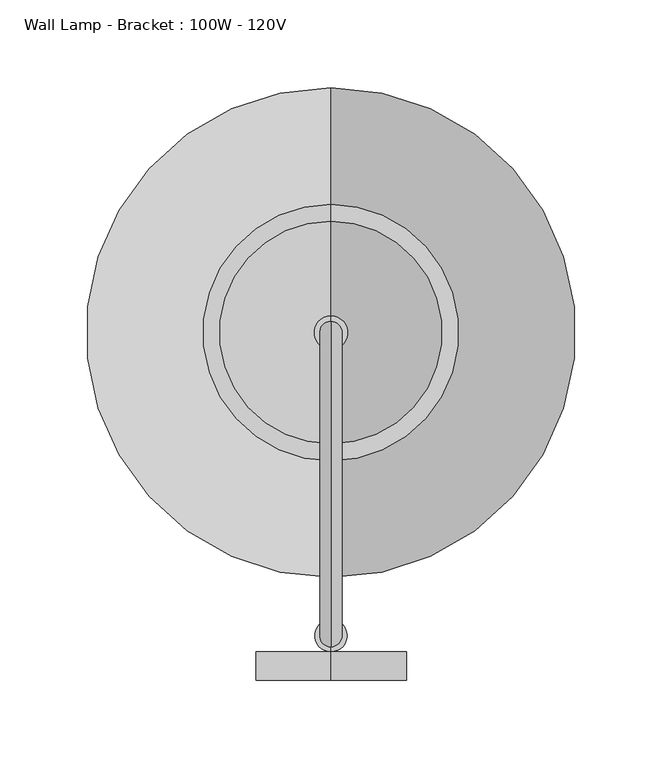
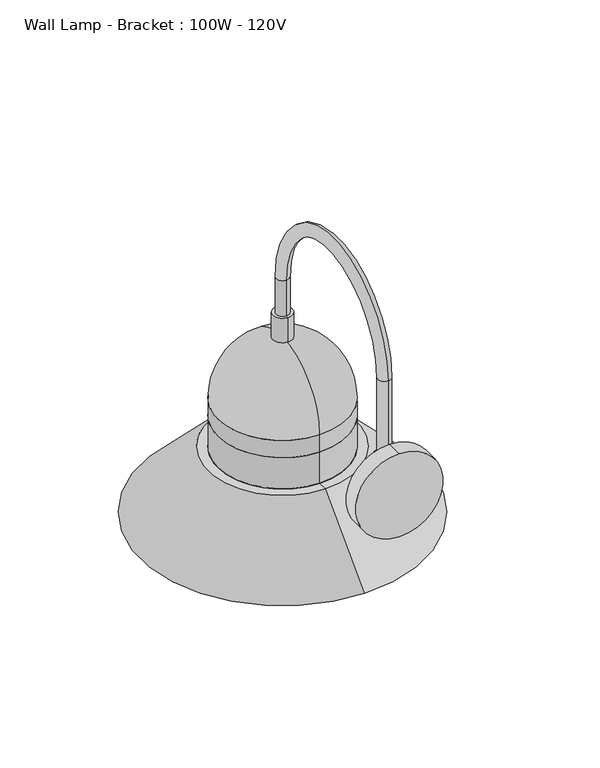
"""IFC4 building model written with IfcOpenShell, lengths in millimetres: light fixture geometry, Wall Lamp - Bracket : 100W - 120V."""

from ifc_helpers import new_model, si_unit, point, frame, frame_2d, origin, place, context, project, spatial, polyline, circle_curve, ellipse_curve, trimmed, segment, composite_curve, outline, extrude, source, transform, mapped, element, save
from ifc_brep_helpers import plane_surface, cylinder_surface, revolved_surface, advanced_brep


def wall_lamp_bracket_100w_120v_972e2e4e(model_context):
    return source(origin(), model_context, "Body", "SolidModel", [
        advanced_brep(
        [(-36.3556627, 85.7645413, 2413.7644247), (-36.3556627, 98.4645413, 2413.7644247), (-36.3556627, 98.4645413, 2334.6251468), (-36.3556627, 85.7645413, 2334.6251468), (-36.3556627, 271.4625, 2413.7644247), (-36.3556627, 258.7625, 2413.7644247), (-36.3556627, 271.4625, 2376.6250104), (-36.3556627, 258.7625, 2376.6250104), (-36.3556627, 82.9143793, 2334.6251468), (-36.3556627, 101.3147034, 2334.6251468), (-36.3556627, 101.3147034, 2307.1079598), (-36.3556627, 82.9143793, 2307.1079598), (-36.3556627, 92.1145413, 2297.9077977)],
        [
            (0, 1, circle_curve(frame((-36.3556627, 92.1145413, 2413.7644247), z_axis=(0.0, 0.0, -1.0), x_axis=(0.0, 1.0, 0.0)), 6.35)),
            (1, 2),
            (2, 3, circle_curve(frame((-36.3556627, 92.1145413, 2334.6251468), z_axis=(0.0, 0.0, 1.0), x_axis=(0.0, 1.0, 0.0)), 6.35)),
            (3, 0),
            (1, 0, circle_curve(frame((-36.3556627, 92.1145413, 2413.7644247), z_axis=(0.0, 0.0, -1.0), x_axis=(0.0, 1.0, 0.0)), 6.35)),
            (3, 2, circle_curve(frame((-36.3556627, 92.1145413, 2334.6251468), z_axis=(0.0, 0.0, 1.0), x_axis=(0.0, 1.0, 0.0)), 6.35)),
            (0, 4, circle_curve(frame((-36.3556627, 178.6135207, 2413.7644247), z_axis=(-1.0, 0.0, 0.0), x_axis=(0.0, -1.0, 0.0)), 92.8489793)),
            (4, 5, circle_curve(frame((-36.3556627, 265.1125, 2413.7644247), z_axis=(0.0, 0.0, 1.0), x_axis=(0.0, -1.0, 0.0)), 6.35)),
            (5, 1, circle_curve(frame((-36.3556627, 178.6135207, 2413.7644247), z_axis=(1.0, 0.0, 0.0), x_axis=(0.0, -1.0, 0.0)), 80.1489793)),
            (5, 4, circle_curve(frame((-36.3556627, 265.1125, 2413.7644247), z_axis=(0.0, 0.0, 1.0), x_axis=(0.0, -1.0, 0.0)), 6.35)),
            (6, 7, circle_curve(frame((-36.3556627, 265.1125, 2376.6250104), z_axis=(0.0, 0.0, -1.0), x_axis=(0.0, -1.0, 0.0)), 6.35)),
            (7, 6, circle_curve(frame((-36.3556627, 265.1125, 2376.6250104), z_axis=(0.0, 0.0, -1.0), x_axis=(0.0, -1.0, 0.0)), 6.35)),
            (4, 6),
            (7, 5),
            (8, 9, circle_curve(frame((-36.3556627, 92.1145413, 2334.6251468), z_axis=(0.0, 0.0, 1.0), x_axis=(0.0, -1.0, 0.0)), 9.2001621)),
            (9, 2),
            (3, 8),
            (9, 8, circle_curve(frame((-36.3556627, 92.1145413, 2334.6251468), z_axis=(0.0, 0.0, 1.0), x_axis=(0.0, -1.0, 0.0)), 9.2001621)),
            (10, 11, circle_curve(frame((-36.3556627, 92.1145413, 2307.1079598), z_axis=(0.0, 0.0, -1.0), x_axis=(0.0, -1.0, 0.0)), 9.2001621)),
            (11, 12, circle_curve(frame((-36.3556627, 92.1145413, 2307.1079598), z_axis=(1.0, 0.0, 0.0), x_axis=(0.0, -1.0, 0.0)), 9.2001621)),
            (12, 10, circle_curve(frame((-36.3556627, 92.1145413, 2307.1079598), z_axis=(1.0, 0.0, 0.0), x_axis=(0.0, 1.0, 0.0)), 9.2001621)),
            (11, 10, circle_curve(frame((-36.3556627, 92.1145413, 2307.1079598), z_axis=(0.0, 0.0, -1.0), x_axis=(0.0, -1.0, 0.0)), 9.2001621)),
            (8, 11),
            (10, 9),
        ],
        [
            cylinder_surface(frame((-36.3556627, 92.1145413, 2317.75), z_axis=(0.0, 0.0, -1.0), x_axis=(0.0, 1.0, 0.0)), 6.35),
            revolved_surface(trimmed(ellipse_curve(frame((-36.3556627, 92.1145413, 2413.7644247), z_axis=(0.0, 0.0, -1.0), x_axis=(0.0, 1.0, 0.0)), 6.35, 6.35), [point((-36.3556627, 85.7645413, 2413.7644247))], [point((-36.3556627, 98.4645413, 2413.7644247))], True, "CARTESIAN"), (-36.3556627, 178.6135207, 2413.7644247), (-1.0, 0.0, 0.0)),
            revolved_surface(trimmed(ellipse_curve(frame((-36.3556627, 92.1145413, 2413.7644247), z_axis=(0.0, 0.0, -1.0), x_axis=(0.0, 1.0, 0.0)), 6.35, 6.35), [point((-36.3556627, 98.4645413, 2413.7644247))], [point((-36.3556627, 85.7645413, 2413.7644247))], True, "CARTESIAN"), (-36.3556627, 178.6135207, 2413.7644247), (-1.0, 0.0, 0.0)),
            plane_surface(frame((-36.3556627, 258.7625, 2376.6250104), z_axis=(0.0, 0.0, -1.0), x_axis=(-1.0, 0.0, 0.0))),
            cylinder_surface(frame((-36.3556627, 265.1125, 2413.7644247), z_axis=(0.0, 0.0, 1.0), x_axis=(0.0, -1.0, 0.0)), 6.35),
            plane_surface(frame((-36.3556627, 92.1145413, 2334.6251468), z_axis=(0.0, 0.0, 1.0), x_axis=(0.0, -1.0, 0.0))),
            revolved_surface(trimmed(ellipse_curve(frame((-36.3556627, 92.1145413, 2307.1079598), z_axis=(-1.0, 0.0, 0.0), x_axis=(0.0, -1.0, 0.0)), 9.2001621, 9.2001621), [point((-36.3556627, 92.1145413, 2297.9077977))], [point((-36.3556627, 82.9143793, 2307.1079598))], True, "CARTESIAN"), (-36.3556627, 92.1145413, 2472.7469008), (0.0, 0.0, 1.0)),
            cylinder_surface(frame((-36.3556627, 92.1145413, 2472.7469008), z_axis=(0.0, 0.0, 1.0), x_axis=(0.0, -1.0, 0.0)), 9.2001621),
        ],
        [
            (0, [[1, 2, 3, 4]]),
            (0, [[5, -4, 6, -2]]),
            (1, [[-1, 7, 8, 9]]),
            (2, [[-5, -9, 10, -7]]),
            (3, [[11, 12]]),
            (4, [[-8, 13, -12, 14]]),
            (4, [[-10, -14, -11, -13]]),
            (5, [[15, 16, -6, 17]]),
            (5, [[18, -17, -3, -16]]),
            (6, [[19, 20, 21]]),
            (6, [[-20, 22, -21]]),
            (7, [[-15, 23, -19, 24]]),
            (7, [[-18, -24, -22, -23]]),
        ],
    ),
        extrude(outline(composite_curve([segment(trimmed(circle_curve(frame_2d((2307.1079598, -36.3556627)), 43.0116676), [point((2264.0962922, -36.3556627))], [point((2350.1196273, -36.3556627))], False, "CARTESIAN"), True, "CONTINUOUS"), segment(trimmed(circle_curve(frame_2d((2307.1079598, -36.3556627)), 43.0116676), [point((2350.1196273, -36.3556627))], [point((2264.0962922, -36.3556627))], False, "CARTESIAN"), True, "CONTINUOUS")], self_intersect=False)), frame((0.0, 66.675, 0.0), z_axis=(0.0, 1.0, 0.0), x_axis=(0.0, 0.0, 1.0)), (0.0, 0.0, 1.0), 16.2393793),
        advanced_brep(
        [(-36.3556627, 328.6125, 2237.5701357), (-36.3556627, 201.6125, 2237.5701357), (-36.3556627, 201.6125, 2197.1), (-36.3556627, 328.6125, 2197.1), (-36.3556627, 265.1125, 2237.5701357), (-36.3556627, 265.1125, 2133.6)],
        [
            (0, 1, circle_curve(frame((-36.3556627, 265.1125, 2237.5701357), z_axis=(0.0, 0.0, -1.0), x_axis=(0.0, -1.0, 0.0)), 63.5)),
            (1, 2),
            (2, 3, circle_curve(frame((-36.3556627, 265.1125, 2197.1), z_axis=(0.0, 0.0, 1.0), x_axis=(0.0, -1.0, 0.0)), 63.5)),
            (3, 0),
            (1, 0, circle_curve(frame((-36.3556627, 265.1125, 2237.5701357), z_axis=(0.0, 0.0, -1.0), x_axis=(0.0, -1.0, 0.0)), 63.5)),
            (3, 2, circle_curve(frame((-36.3556627, 265.1125, 2197.1), z_axis=(0.0, 0.0, 1.0), x_axis=(0.0, -1.0, 0.0)), 63.5)),
            (4, 1),
            (0, 4),
            (2, 5, circle_curve(frame((-36.3556627, 265.1125, 2197.1), z_axis=(1.0, 0.0, 0.0), x_axis=(0.0, -1.0, 0.0)), 63.5)),
            (5, 3, circle_curve(frame((-36.3556627, 265.1125, 2197.1), z_axis=(1.0, 0.0, 0.0), x_axis=(0.0, 1.0, 0.0)), 63.5)),
        ],
        [
            cylinder_surface(frame((-36.3556627, 265.1125, -914.4), z_axis=(0.0, 0.0, 1.0), x_axis=(0.0, -1.0, 0.0)), 63.5),
            plane_surface(frame((-36.3556627, 265.1125, 2237.5701357), z_axis=(0.0, 0.0, 1.0), x_axis=(0.0, -1.0, 0.0))),
            revolved_surface(trimmed(ellipse_curve(frame((-36.3556627, 265.1125, 2197.1), z_axis=(-1.0, 0.0, 0.0), x_axis=(0.0, -1.0, 0.0)), 63.5, 63.5), [point((-36.3556627, 265.1125, 2133.6))], [point((-36.3556627, 201.6125, 2197.1))], True, "CARTESIAN"), (-36.3556627, 265.1125, -914.4), (0.0, 0.0, 1.0)),
        ],
        [
            (0, [[1, 2, 3, 4]]),
            (0, [[5, -4, 6, -2]]),
            (1, [[7, -1, 8]]),
            (1, [[-8, -5, -7]]),
            (2, [[-3, 9, 10]]),
            (2, [[-6, -10, -9]]),
        ],
    ),
        advanced_brep(
        [(-36.3556627, 328.6125, 2269.8272766), (-36.3556627, 201.6125, 2269.8272766), (-36.3556627, 201.6125, 2237.5701357), (-36.3556627, 328.6125, 2237.5701357), (-36.3556627, 325.4375, 2269.8272766), (-36.3556627, 204.7875, 2269.8272766), (-36.3556627, 325.4375, 2234.3951357), (-36.3556627, 204.7875, 2234.3951357), (-36.3556627, 336.8669546, 2234.3951357), (-36.3556627, 193.3580454, 2234.3951357), (-36.3556627, 400.672628, 2169.5241129), (-36.3556627, 129.552372, 2169.5241129), (-36.3556627, 404.8125, 2169.5241129), (-36.3556627, 125.4125, 2169.5241129), (-36.3556627, 338.3501529, 2237.5701357), (-36.3556627, 191.8748471, 2237.5701357)],
        [
            (0, 1, circle_curve(frame((-36.3556627, 265.1125, 2269.8272766), z_axis=(0.0, 0.0, -1.0), x_axis=(0.0, -1.0, 0.0)), 63.5)),
            (1, 2),
            (2, 3, circle_curve(frame((-36.3556627, 265.1125, 2237.5701357), z_axis=(0.0, 0.0, 1.0), x_axis=(0.0, -1.0, 0.0)), 63.5)),
            (3, 0),
            (1, 0, circle_curve(frame((-36.3556627, 265.1125, 2269.8272766), z_axis=(0.0, 0.0, -1.0), x_axis=(0.0, -1.0, 0.0)), 63.5)),
            (3, 2, circle_curve(frame((-36.3556627, 265.1125, 2237.5701357), z_axis=(0.0, 0.0, 1.0), x_axis=(0.0, -1.0, 0.0)), 63.5)),
            (4, 5, circle_curve(frame((-36.3556627, 265.1125, 2269.8272766), z_axis=(0.0, 0.0, -1.0), x_axis=(0.0, -1.0, 0.0)), 60.325)),
            (5, 1),
            (0, 4),
            (5, 4, circle_curve(frame((-36.3556627, 265.1125, 2269.8272766), z_axis=(0.0, 0.0, -1.0), x_axis=(0.0, -1.0, 0.0)), 60.325)),
            (6, 7, circle_curve(frame((-36.3556627, 265.1125, 2234.3951357), z_axis=(0.0, 0.0, -1.0), x_axis=(0.0, -1.0, 0.0)), 60.325)),
            (7, 5),
            (4, 6),
            (7, 6, circle_curve(frame((-36.3556627, 265.1125, 2234.3951357), z_axis=(0.0, 0.0, -1.0), x_axis=(0.0, -1.0, 0.0)), 60.325)),
            (8, 9, circle_curve(frame((-36.3556627, 265.1125, 2234.3951357), z_axis=(0.0, 0.0, -1.0), x_axis=(0.0, -1.0, 0.0)), 71.7544546)),
            (9, 7),
            (6, 8),
            (9, 8, circle_curve(frame((-36.3556627, 265.1125, 2234.3951357), z_axis=(0.0, 0.0, -1.0), x_axis=(0.0, -1.0, 0.0)), 71.7544546)),
            (10, 11, circle_curve(frame((-36.3556627, 265.1125, 2169.5241129), z_axis=(0.0, 0.0, -1.0), x_axis=(0.0, -1.0, 0.0)), 135.560128)),
            (11, 9),
            (8, 10),
            (11, 10, circle_curve(frame((-36.3556627, 265.1125, 2169.5241129), z_axis=(0.0, 0.0, -1.0), x_axis=(0.0, -1.0, 0.0)), 135.560128)),
            (12, 13, circle_curve(frame((-36.3556627, 265.1125, 2169.5241129), z_axis=(0.0, 0.0, -1.0), x_axis=(0.0, -1.0, 0.0)), 139.7)),
            (13, 11),
            (10, 12),
            (13, 12, circle_curve(frame((-36.3556627, 265.1125, 2169.5241129), z_axis=(0.0, 0.0, -1.0), x_axis=(0.0, -1.0, 0.0)), 139.7)),
            (14, 15, circle_curve(frame((-36.3556627, 265.1125, 2237.5701357), z_axis=(0.0, 0.0, -1.0), x_axis=(0.0, -1.0, 0.0)), 73.2376529)),
            (15, 13),
            (12, 14),
            (15, 14, circle_curve(frame((-36.3556627, 265.1125, 2237.5701357), z_axis=(0.0, 0.0, -1.0), x_axis=(0.0, -1.0, 0.0)), 73.2376529)),
            (2, 15),
            (14, 3),
        ],
        [
            cylinder_surface(frame((-36.3556627, 265.1125, -914.4), z_axis=(0.0, 0.0, 1.0), x_axis=(0.0, -1.0, 0.0)), 63.5),
            plane_surface(frame((-36.3556627, 265.1125, 2269.8272766), z_axis=(0.0, 0.0, 1.0), x_axis=(0.0, -1.0, 0.0))),
            revolved_surface(polyline([(-36.3556627, 204.78750000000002, 2269.8272766), (-36.3556627, 204.78750000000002, 2234.3951357)]), (-36.3556627, 265.1125, -914.4), (0.0, 0.0, 1.0)),
            plane_surface(frame((-36.3556627, 265.1125, 2234.3951357), z_axis=(0.0, 0.0, -1.0), x_axis=(0.0, -1.0, 0.0))),
            revolved_surface(polyline([(-36.3556627, 193.3580454, 2234.3951357), (-36.3556627, 129.552372, 2169.5241129)]), (-36.3556627, 265.1125, -914.4), (0.0, 0.0, 1.0)),
            plane_surface(frame((-36.3556627, 265.1125, 2169.5241129), z_axis=(0.0, 0.0, -1.0), x_axis=(0.0, -1.0, 0.0))),
            revolved_surface(polyline([(-36.3556627, 125.4125, 2169.5241129), (-36.3556627, 191.8748471, 2237.5701357)]), (-36.3556627, 265.1125, -914.4), (0.0, 0.0, 1.0)),
            plane_surface(frame((-36.3556627, 265.1125, 2237.5701357), z_axis=(0.0, 0.0, 1.0), x_axis=(0.0, -1.0, 0.0))),
        ],
        [
            (0, [[1, 2, 3, 4]]),
            (0, [[5, -4, 6, -2]]),
            (1, [[7, 8, -1, 9]]),
            (1, [[10, -9, -5, -8]]),
            (2, [[11, 12, -7, 13]]),
            (2, [[14, -13, -10, -12]]),
            (3, [[15, 16, -11, 17]]),
            (3, [[18, -17, -14, -16]]),
            (4, [[19, 20, -15, 21]]),
            (4, [[22, -21, -18, -20]]),
            (5, [[23, 24, -19, 25]]),
            (5, [[26, -25, -22, -24]]),
            (6, [[27, 28, -23, 29]]),
            (6, [[30, -29, -26, -28]]),
            (7, [[-3, 31, -27, 32]]),
            (7, [[-6, -32, -30, -31]]),
        ],
    ),
        advanced_brep(
        [(-36.3556627, 328.6125, 2287.7818991), (-36.3556627, 201.6125, 2287.7818991), (-36.3556627, 201.6125, 2269.8272766), (-36.3556627, 328.6125, 2269.8272766), (-36.3556627, 265.1125, 2351.2818991), (-36.3556627, 265.1125, 2269.8272766)],
        [
            (0, 1, circle_curve(frame((-36.3556627, 265.1125, 2287.7818991), z_axis=(0.0, 0.0, -1.0), x_axis=(0.0, -1.0, 0.0)), 63.5)),
            (1, 2),
            (2, 3, circle_curve(frame((-36.3556627, 265.1125, 2269.8272766), z_axis=(0.0, 0.0, 1.0), x_axis=(0.0, -1.0, 0.0)), 63.5)),
            (3, 0),
            (1, 0, circle_curve(frame((-36.3556627, 265.1125, 2287.7818991), z_axis=(0.0, 0.0, -1.0), x_axis=(0.0, -1.0, 0.0)), 63.5)),
            (3, 2, circle_curve(frame((-36.3556627, 265.1125, 2269.8272766), z_axis=(0.0, 0.0, 1.0), x_axis=(0.0, -1.0, 0.0)), 63.5)),
            (4, 1, circle_curve(frame((-36.3556627, 265.1125, 2287.7818991), z_axis=(1.0, 0.0, 0.0), x_axis=(0.0, -1.0, 0.0)), 63.5)),
            (0, 4, circle_curve(frame((-36.3556627, 265.1125, 2287.7818991), z_axis=(1.0, 0.0, 0.0), x_axis=(0.0, 1.0, 0.0)), 63.5)),
            (2, 5),
            (5, 3),
        ],
        [
            cylinder_surface(frame((-36.3556627, 265.1125, -914.4), z_axis=(0.0, 0.0, 1.0), x_axis=(0.0, -1.0, 0.0)), 63.5),
            revolved_surface(trimmed(ellipse_curve(frame((-36.3556627, 265.1125, 2287.7818991), z_axis=(-1.0, 0.0, 0.0), x_axis=(0.0, -1.0, 0.0)), 63.5, 63.5), [point((-36.3556627, 201.6125, 2287.7818991))], [point((-36.3556627, 265.1125, 2351.2818991))], True, "CARTESIAN"), (-36.3556627, 265.1125, -914.4), (0.0, 0.0, 1.0)),
            plane_surface(frame((-36.3556627, 265.1125, 2269.8272766), z_axis=(0.0, 0.0, -1.0), x_axis=(0.0, -1.0, 0.0))),
        ],
        [
            (0, [[1, 2, 3, 4]]),
            (0, [[5, -4, 6, -2]]),
            (1, [[7, -1, 8]]),
            (1, [[-8, -5, -7]]),
            (2, [[-3, 9, 10]]),
            (2, [[-6, -10, -9]]),
        ],
    ),
        advanced_brep(
        [(-36.3556627, 274.6375, 2351.5511541), (-36.3556627, 255.5875, 2351.5511541), (-36.3556627, 265.1125, 2351.5511541), (-36.3556627, 274.6375, 2376.6250104), (-36.3556627, 255.5875, 2376.6250104), (-36.3556627, 265.1125, 2376.6250104)],
        [
            (0, 1, circle_curve(frame((-36.3556627, 265.1125, 2351.5511541), z_axis=(0.0, 0.0, -1.0), x_axis=(0.0, -1.0, 0.0)), 9.525)),
            (1, 2),
            (2, 0),
            (1, 0, circle_curve(frame((-36.3556627, 265.1125, 2351.5511541), z_axis=(0.0, 0.0, -1.0), x_axis=(0.0, -1.0, 0.0)), 9.525)),
            (3, 4, circle_curve(frame((-36.3556627, 265.1125, 2376.6250104), z_axis=(0.0, 0.0, -1.0), x_axis=(0.0, -1.0, 0.0)), 9.525)),
            (4, 1),
            (0, 3),
            (4, 3, circle_curve(frame((-36.3556627, 265.1125, 2376.6250104), z_axis=(0.0, 0.0, -1.0), x_axis=(0.0, -1.0, 0.0)), 9.525)),
            (5, 4),
            (3, 5),
        ],
        [
            plane_surface(frame((-36.3556627, 265.1125, 2351.5511541), z_axis=(0.0, 0.0, -1.0), x_axis=(0.0, -1.0, 0.0))),
            cylinder_surface(frame((-36.3556627, 265.1125, -914.4), z_axis=(0.0, 0.0, 1.0), x_axis=(0.0, -1.0, 0.0)), 9.525),
            plane_surface(frame((-36.3556627, 265.1125, 2376.6250104), z_axis=(0.0, 0.0, 1.0), x_axis=(0.0, -1.0, 0.0))),
        ],
        [
            (0, [[1, 2, 3]]),
            (0, [[4, -3, -2]]),
            (1, [[5, 6, -1, 7]]),
            (1, [[8, -7, -4, -6]]),
            (2, [[9, -5, 10]]),
            (2, [[-10, -8, -9]]),
        ],
    ),
    ])


if __name__ == "__main__":
    model = new_model("IFC4")
    model_context = context("Model", 3, world=origin())
    ifc_project = project(units=[si_unit("LENGTHUNIT", "METRE", prefix="MILLI")], contexts=[model_context])
    site = spatial("IfcSite", under=ifc_project)
    building = spatial("IfcBuilding", under=site)
    placement = place(None, origin())
    wall_lamp_bracket_100w_120v_shape = wall_lamp_bracket_100w_120v_972e2e4e(model_context)
    element("IfcLightFixture", 1, ObjectType="Wall Lamp - Bracket : 100W - 120V", at=placement, inside=building, context=model_context, shape_type="MappedRepresentation", body=[
        mapped(wall_lamp_bracket_100w_120v_shape, transform((0.0, 0.0, 0.0), x_axis=(1.0, 0.0, 0.0), y_axis=(0.0, 1.0, 0.0), z_axis=(0.0, 0.0, 1.0))),
    ])
    save(model, "model.ifc")
